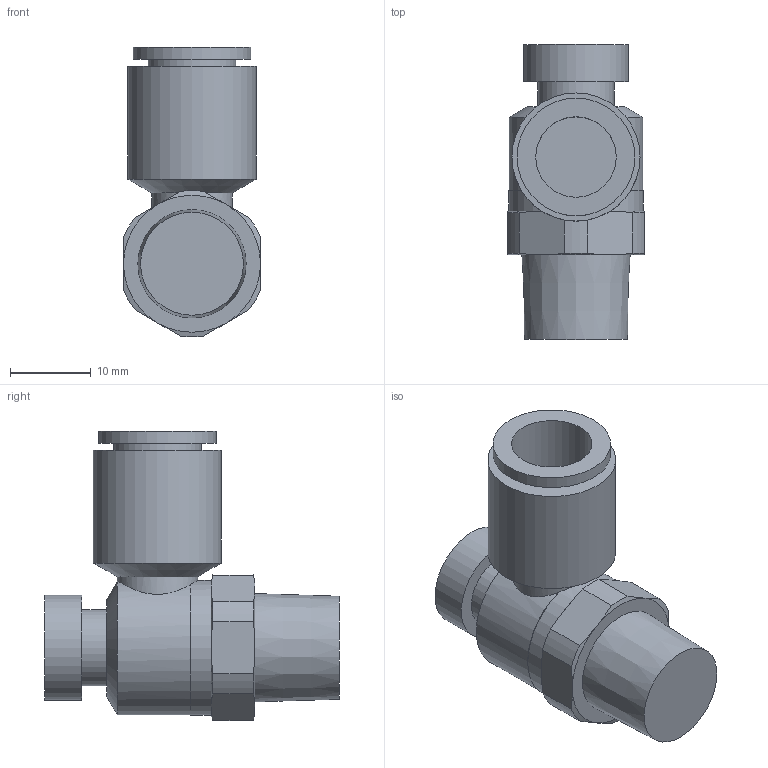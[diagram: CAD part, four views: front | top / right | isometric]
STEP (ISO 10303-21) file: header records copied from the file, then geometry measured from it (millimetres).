
FILE_DESCRIPTION(/* description */ ('STEP AP214'),/* implementation_level */ '2;1');
FILE_NAME(/* name */ 'AS2201F-02-10SA',/* time_stamp */ '2024-10-24T13:03:10+02:00',/* author */ ('License CC BY-ND 4.0'),/* organization */ ('CADENAS'),/* preprocessor_version */ 'ST-DEVELOPER v19.3',/* originating_system */ 'PARTsolutions',/* authorisation */ ' ');
FILE_SCHEMA (('AUTOMOTIVE_DESIGN {1 0 10303 214 3 1 1}'));
Length unit declared in the file: millimetre
Products named in the file (1): AS2201F-02-10SA
Bounding box: 17 x 36.6 x 35.99 mm (x, y, z)
Volume: 8499.3 mm3; surface area: 3966.4 mm2
Topology: 1 solids, 1 shells, 47 faces, 100 edges, 62 vertices
Faces by surface type: plane 17, cone 15, cylinder 15
Full cylindrical faces by diameter (mm): 9.45 x1, 10 x2, 10.9 x1, 13 x1, 14.6 x1, 15.9 x1, 16.7 x1
Entity records: 1256 total; most frequent: CARTESIAN_POINT 291, DIRECTION 198, ORIENTED_EDGE 172, AXIS2_PLACEMENT_3D 92, EDGE_CURVE 86, EDGE_LOOP 65, FACE_BOUND 65, VERTEX_POINT 59
